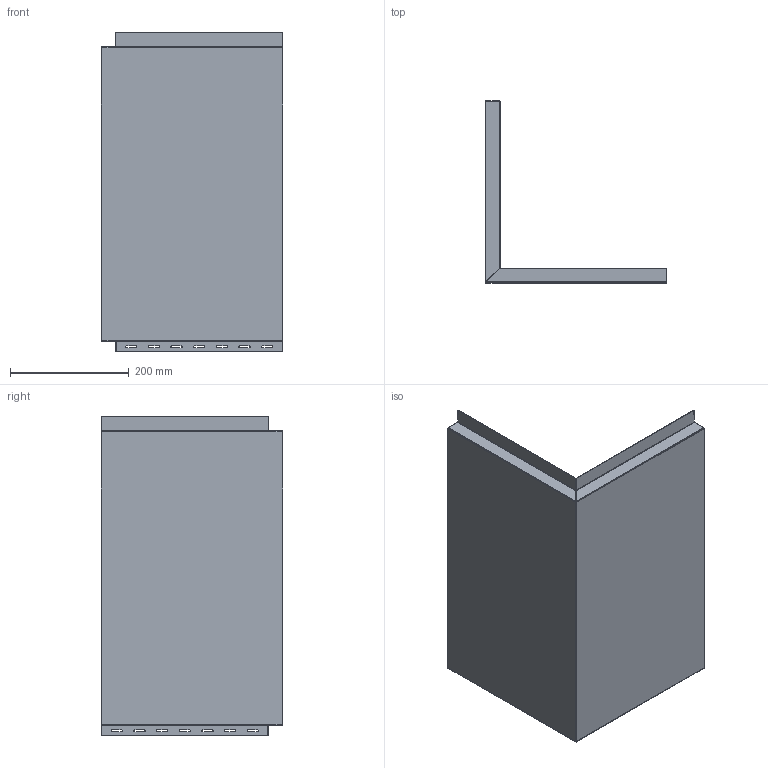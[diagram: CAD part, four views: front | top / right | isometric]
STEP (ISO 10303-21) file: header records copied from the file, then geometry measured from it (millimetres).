
FILE_DESCRIPTION(/* description */ (''),/* implementation_level */ '2;1');
FILE_NAME(/* name */ 'C:\Users\Utilisateur\Mac Metal\Site de communication - Documents\Ingénierie\1. Dessins techniques produits Mac\CAD _ REVIT Profiles drawing - MAC\Polymac\Polymac corner 12 x 12 x 20\SPCG24.20.stp',/* time_stamp */ '2023-02-08T11:03:42-05:00',/* author */ ('Utilisateur'),/* organization */ (''),/* preprocessor_version */ 'ST-DEVELOPER v18.1',/* originating_system */ 'Autodesk Inventor 2022',/* authorisation */ '');
FILE_SCHEMA (('AUTOMOTIVE_DESIGN { 1 0 10303 214 3 1 1 }'));
Length unit declared in the file: inch
Products named in the file (1): SPCG24.20
Bounding box: 305.8 x 305.8 x 537.16 mm (x, y, z)
Volume: 255735.8 mm3; surface area: 776807.5 mm2
Topology: 1 solids, 1 shells, 176 faces, 538 edges, 352 vertices
Faces by surface type: plane 86, cylinder 86, bspline 4
Entity records: 6571 total; most frequent: CARTESIAN_POINT 1807, ORIENTED_EDGE 1068, DIRECTION 894, EDGE_CURVE 534, VERTEX_POINT 352, LINE 328, VECTOR 328, AXIS2_PLACEMENT_3D 283
